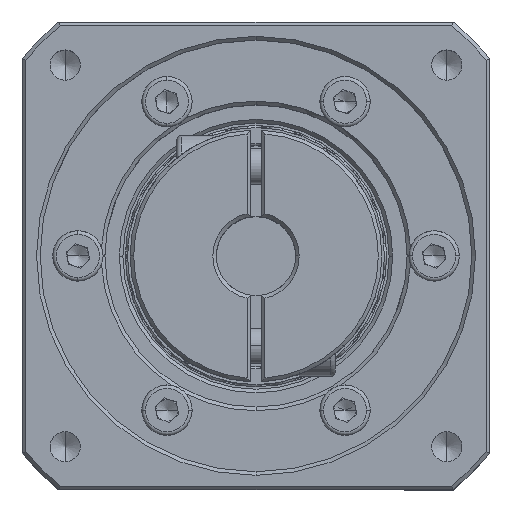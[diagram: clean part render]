
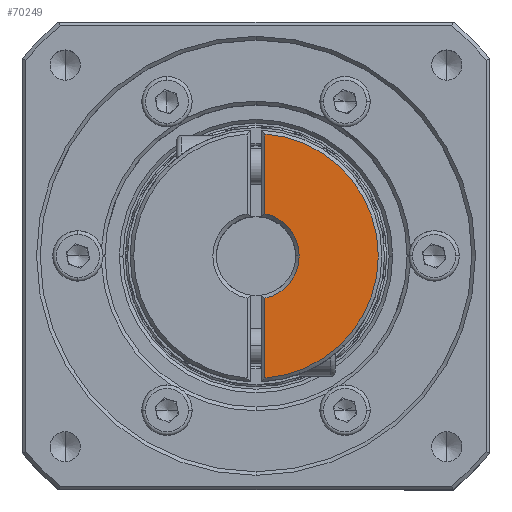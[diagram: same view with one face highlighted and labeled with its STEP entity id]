
A CAD part, top view. The second image highlights one B-rep face of the part: STEP entity #70249.
In plain terms, the highlighted planar face has unit normal (0, 0, 1).
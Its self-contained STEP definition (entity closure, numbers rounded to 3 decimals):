
#4 = EDGE_CURVE ( 'NONE', #94570, #5859, #35103, .T. ) ;
#1064 = EDGE_CURVE ( 'NONE', #94570, #40318, #65546, .T. ) ;
#5859 = VERTEX_POINT ( 'NONE', #37501 ) ;
#8249 = CARTESIAN_POINT ( 'NONE',  ( -95.138, 43., 17.777 ) ) ;
#11352 = CARTESIAN_POINT ( 'NONE',  ( -93.888, 62.185, 17.777 ) ) ;
#12805 = CARTESIAN_POINT ( 'NONE',  ( -93.888, 62.185, 17.777 ) ) ;
#13309 = DIRECTION ( 'NONE',  ( 0., 0., -1. ) ) ;
#17651 = DIRECTION ( 'NONE',  ( 1., 0., 0. ) ) ;
#21737 = CARTESIAN_POINT ( 'NONE',  ( -95.138, 43., 17.777 ) ) ;
#22141 = DIRECTION ( 'NONE',  ( 0., 0., -1. ) ) ;
#23270 = EDGE_CURVE ( 'NONE', #40318, #60330, #43236, .T. ) ;
#31586 = DIRECTION ( 'NONE',  ( 0., -1., 0. ) ) ;
#31680 = CARTESIAN_POINT ( 'NONE',  ( -95.138, 25.5, 17.777 ) ) ;
#35103 = CIRCLE ( 'NONE', #67889, 17. ) ;
#37501 = CARTESIAN_POINT ( 'NONE',  ( -93.888, 26.046, 17.777 ) ) ;
#40073 = EDGE_LOOP ( 'NONE', ( #68815, #116677, #90726, #45845, #108000 ) ) ;
#40318 = VERTEX_POINT ( 'NONE', #75515 ) ;
#40626 = AXIS2_PLACEMENT_3D ( 'NONE', #31680, #97392, #41176 ) ;
#40760 = PLANE ( 'NONE',  #40626 ) ;
#41176 = DIRECTION ( 'NONE',  ( -1., 0., 0. ) ) ;
#43236 = CIRCLE ( 'NONE', #75913, 6. ) ;
#45683 = EDGE_CURVE ( 'NONE', #114388, #5859, #48482, .T. ) ;
#45845 = ORIENTED_EDGE ( 'NONE', *, *, #89456, .T. ) ;
#48482 = LINE ( 'NONE', #11352, #73408 ) ;
#60330 = VERTEX_POINT ( 'NONE', #66032 ) ;
#65546 = LINE ( 'NONE', #12805, #68494 ) ;
#66032 = CARTESIAN_POINT ( 'NONE',  ( -89.138, 43., 17.777 ) ) ;
#67889 = AXIS2_PLACEMENT_3D ( 'NONE', #21737, #22141, #69345 ) ;
#68494 = VECTOR ( 'NONE', #31586, 1000. ) ;
#68815 = ORIENTED_EDGE ( 'NONE', *, *, #4, .F. ) ;
#69197 = FACE_OUTER_BOUND ( 'NONE', #40073, .T. ) ;
#69345 = DIRECTION ( 'NONE',  ( -1., 0., 0. ) ) ;
#69477 = CARTESIAN_POINT ( 'NONE',  ( -95.138, 43., 17.777 ) ) ;
#70249 = ADVANCED_FACE ( 'NONE', ( #69197 ), #40760, .F. ) ;
#73408 = VECTOR ( 'NONE', #86507, 1000. ) ;
#73859 = DIRECTION ( 'NONE',  ( 0., 0., -1. ) ) ;
#75515 = CARTESIAN_POINT ( 'NONE',  ( -93.888, 48.868, 17.777 ) ) ;
#75913 = AXIS2_PLACEMENT_3D ( 'NONE', #69477, #13309, #78987 ) ;
#78987 = DIRECTION ( 'NONE',  ( 1., 0., 0. ) ) ;
#80668 = CARTESIAN_POINT ( 'NONE',  ( -93.888, 59.954, 17.777 ) ) ;
#86507 = DIRECTION ( 'NONE',  ( 0., -1., 0. ) ) ;
#89456 = EDGE_CURVE ( 'NONE', #60330, #114388, #110718, .T. ) ;
#90726 = ORIENTED_EDGE ( 'NONE', *, *, #23270, .T. ) ;
#94570 = VERTEX_POINT ( 'NONE', #80668 ) ;
#97392 = DIRECTION ( 'NONE',  ( 0., 0., -1. ) ) ;
#108000 = ORIENTED_EDGE ( 'NONE', *, *, #45683, .T. ) ;
#110718 = CIRCLE ( 'NONE', #116558, 6. ) ;
#114388 = VERTEX_POINT ( 'NONE', #119767 ) ;
#116558 = AXIS2_PLACEMENT_3D ( 'NONE', #8249, #73859, #17651 ) ;
#116677 = ORIENTED_EDGE ( 'NONE', *, *, #1064, .T. ) ;
#119767 = CARTESIAN_POINT ( 'NONE',  ( -93.888, 37.131, 17.777 ) ) ;
